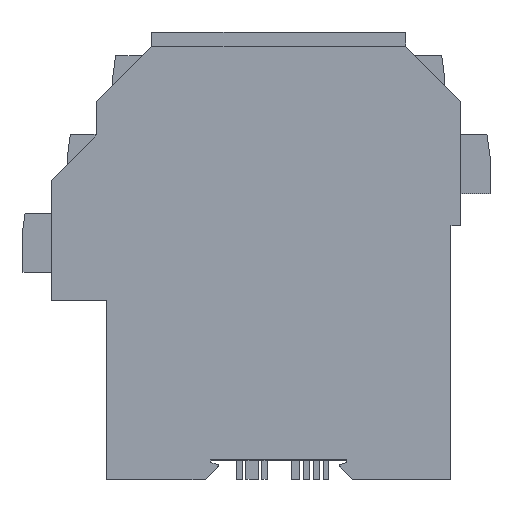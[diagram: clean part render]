
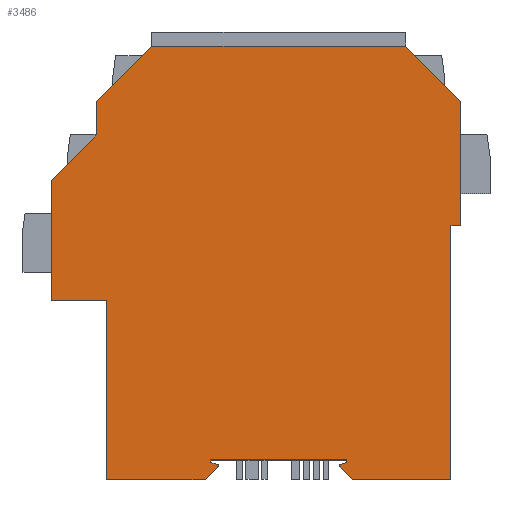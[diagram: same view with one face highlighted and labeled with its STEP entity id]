
A CAD part, top view. The second image highlights one B-rep face of the part: STEP entity #3486.
In plain terms, the highlighted planar face has unit normal (0, 0, 1).
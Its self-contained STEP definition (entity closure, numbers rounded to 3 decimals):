
#61=DIRECTION('',(1.,0.,0.));
#62=VECTOR('',#61,34.59);
#63=CARTESIAN_POINT('',(-17.25,0.,10.));
#64=LINE('',#63,#62);
#433=DIRECTION('',(0.,-1.,0.));
#434=VECTOR('',#433,45.5);
#435=CARTESIAN_POINT('',(-43.75,40.5,10.));
#436=LINE('',#435,#434);
#445=DIRECTION('',(0.,-1.,0.));
#446=VECTOR('',#445,0.65);
#447=CARTESIAN_POINT('',(-17.25,0.,10.));
#448=LINE('',#447,#446);
#449=DIRECTION('',(0.965,-0.261,0.));
#450=VECTOR('',#449,2.072);
#451=CARTESIAN_POINT('',(-17.25,-0.65,10.));
#452=LINE('',#451,#450);
#453=DIRECTION('',(0.,-1.,0.));
#454=VECTOR('',#453,0.31);
#455=CARTESIAN_POINT('',(-15.25,-1.19,10.));
#456=LINE('',#455,#454);
#457=DIRECTION('',(-0.699,-0.715,0.));
#458=VECTOR('',#457,4.894);
#459=CARTESIAN_POINT('',(-15.25,-1.5,10.));
#460=LINE('',#459,#458);
#461=DIRECTION('',(-1.,0.,0.));
#462=VECTOR('',#461,25.08);
#463=CARTESIAN_POINT('',(-18.67,-5.,10.));
#464=LINE('',#463,#462);
#465=DIRECTION('',(-1.,0.,0.));
#466=VECTOR('',#465,14.);
#467=CARTESIAN_POINT('',(-43.75,40.5,10.));
#468=LINE('',#467,#466);
#469=DIRECTION('',(0.,1.,0.));
#470=VECTOR('',#469,30.5);
#471=CARTESIAN_POINT('',(-57.75,40.5,10.));
#472=LINE('',#471,#470);
#473=DIRECTION('',(0.707,0.707,0.));
#474=VECTOR('',#473,16.263);
#475=CARTESIAN_POINT('',(-57.75,71.,10.));
#476=LINE('',#475,#474);
#477=DIRECTION('',(0.,1.,0.));
#478=VECTOR('',#477,8.5);
#479=CARTESIAN_POINT('',(-46.25,82.5,10.));
#480=LINE('',#479,#478);
#481=DIRECTION('',(0.707,0.707,0.));
#482=VECTOR('',#481,19.87);
#483=CARTESIAN_POINT('',(-46.25,91.,10.));
#484=LINE('',#483,#482);
#485=DIRECTION('',(1.,0.,0.));
#486=VECTOR('',#485,64.4);
#487=CARTESIAN_POINT('',(-32.2,105.05,10.));
#488=LINE('',#487,#486);
#489=DIRECTION('',(0.707,-0.707,0.));
#490=VECTOR('',#489,19.87);
#491=CARTESIAN_POINT('',(32.2,105.05,10.));
#492=LINE('',#491,#490);
#493=DIRECTION('',(0.,-1.,0.));
#494=VECTOR('',#493,31.5);
#495=CARTESIAN_POINT('',(46.25,91.,10.));
#496=LINE('',#495,#494);
#497=DIRECTION('',(-1.,0.,0.));
#498=VECTOR('',#497,2.5);
#499=CARTESIAN_POINT('',(46.25,59.5,10.));
#500=LINE('',#499,#498);
#501=DIRECTION('',(-1.,0.,0.));
#502=VECTOR('',#501,25.08);
#503=CARTESIAN_POINT('',(43.75,-5.,10.));
#504=LINE('',#503,#502);
#505=DIRECTION('',(-0.689,0.724,0.));
#506=VECTOR('',#505,4.831);
#507=CARTESIAN_POINT('',(18.67,-5.,10.));
#508=LINE('',#507,#506);
#509=DIRECTION('',(0.,1.,0.));
#510=VECTOR('',#509,0.31);
#511=CARTESIAN_POINT('',(15.34,-1.5,10.));
#512=LINE('',#511,#510);
#513=DIRECTION('',(0.965,0.261,0.));
#514=VECTOR('',#513,2.072);
#515=CARTESIAN_POINT('',(15.34,-1.19,10.));
#516=LINE('',#515,#514);
#517=DIRECTION('',(0.,1.,0.));
#518=VECTOR('',#517,0.65);
#519=CARTESIAN_POINT('',(17.34,-0.65,10.));
#520=LINE('',#519,#518);
#1455=DIRECTION('',(0.,1.,0.));
#1456=VECTOR('',#1455,64.5);
#1457=CARTESIAN_POINT('',(43.75,-5.,10.));
#1458=LINE('',#1457,#1456);
#2127=CARTESIAN_POINT('',(-17.25,0.,10.));
#2128=VERTEX_POINT('',#2127);
#2129=CARTESIAN_POINT('',(17.34,0.,10.));
#2130=VERTEX_POINT('',#2129);
#2243=CARTESIAN_POINT('',(-17.25,-0.65,10.));
#2244=VERTEX_POINT('',#2243);
#2245=CARTESIAN_POINT('',(-15.25,-1.19,10.));
#2246=VERTEX_POINT('',#2245);
#2247=CARTESIAN_POINT('',(-15.25,-1.5,10.));
#2248=VERTEX_POINT('',#2247);
#2249=CARTESIAN_POINT('',(-18.67,-5.,10.));
#2250=VERTEX_POINT('',#2249);
#2251=CARTESIAN_POINT('',(-43.75,-5.,10.));
#2252=VERTEX_POINT('',#2251);
#2253=CARTESIAN_POINT('',(18.67,-5.,10.));
#2254=VERTEX_POINT('',#2253);
#2255=CARTESIAN_POINT('',(43.75,-5.,10.));
#2256=VERTEX_POINT('',#2255);
#2257=CARTESIAN_POINT('',(-43.75,40.5,10.));
#2258=VERTEX_POINT('',#2257);
#2259=CARTESIAN_POINT('',(-57.75,40.5,10.));
#2260=VERTEX_POINT('',#2259);
#2261=CARTESIAN_POINT('',(-57.75,71.,10.));
#2262=VERTEX_POINT('',#2261);
#2263=CARTESIAN_POINT('',(-46.25,82.5,10.));
#2264=VERTEX_POINT('',#2263);
#2265=CARTESIAN_POINT('',(-46.25,91.,10.));
#2266=VERTEX_POINT('',#2265);
#2267=CARTESIAN_POINT('',(-32.2,105.05,10.));
#2268=VERTEX_POINT('',#2267);
#2269=CARTESIAN_POINT('',(32.2,105.05,10.));
#2270=VERTEX_POINT('',#2269);
#2271=CARTESIAN_POINT('',(46.25,91.,10.));
#2272=VERTEX_POINT('',#2271);
#2273=CARTESIAN_POINT('',(46.25,59.5,10.));
#2274=VERTEX_POINT('',#2273);
#2275=CARTESIAN_POINT('',(43.75,59.5,10.));
#2276=VERTEX_POINT('',#2275);
#2277=CARTESIAN_POINT('',(15.34,-1.5,10.));
#2278=VERTEX_POINT('',#2277);
#2279=CARTESIAN_POINT('',(15.34,-1.19,10.));
#2280=VERTEX_POINT('',#2279);
#2281=CARTESIAN_POINT('',(17.34,-0.65,10.));
#2282=VERTEX_POINT('',#2281);
#3441=CARTESIAN_POINT('',(0.,0.,10.));
#3442=DIRECTION('',(0.,0.,1.));
#3443=DIRECTION('',(1.,0.,0.));
#3444=AXIS2_PLACEMENT_3D('',#3441,#3442,#3443);
#3445=PLANE('',#3444);
#3446=ORIENTED_EDGE('',*,*,#2935,.F.);
#3448=ORIENTED_EDGE('',*,*,#3447,.T.);
#3449=ORIENTED_EDGE('',*,*,#3376,.T.);
#3451=ORIENTED_EDGE('',*,*,#3450,.T.);
#3452=ORIENTED_EDGE('',*,*,#3391,.T.);
#3453=ORIENTED_EDGE('',*,*,#3407,.T.);
#3454=ORIENTED_EDGE('',*,*,#3432,.F.);
#3456=ORIENTED_EDGE('',*,*,#3455,.T.);
#3458=ORIENTED_EDGE('',*,*,#3457,.T.);
#3460=ORIENTED_EDGE('',*,*,#3459,.T.);
#3462=ORIENTED_EDGE('',*,*,#3461,.T.);
#3464=ORIENTED_EDGE('',*,*,#3463,.T.);
#3466=ORIENTED_EDGE('',*,*,#3465,.T.);
#3468=ORIENTED_EDGE('',*,*,#3467,.T.);
#3470=ORIENTED_EDGE('',*,*,#3469,.T.);
#3472=ORIENTED_EDGE('',*,*,#3471,.T.);
#3474=ORIENTED_EDGE('',*,*,#3473,.F.);
#3475=ORIENTED_EDGE('',*,*,#3419,.T.);
#3477=ORIENTED_EDGE('',*,*,#3476,.T.);
#3479=ORIENTED_EDGE('',*,*,#3478,.T.);
#3481=ORIENTED_EDGE('',*,*,#3480,.T.);
#3483=ORIENTED_EDGE('',*,*,#3482,.T.);
#3484=EDGE_LOOP('',(#3446,#3448,#3449,#3451,#3452,#3453,#3454,#3456,#3458,#3460,
#3462,#3464,#3466,#3468,#3470,#3472,#3474,#3475,#3477,#3479,#3481,#3483));
#3485=FACE_OUTER_BOUND('',#3484,.F.);
#3486=ADVANCED_FACE('',(#3485),#3445,.T.);
#2935=EDGE_CURVE('',#2128,#2130,#64,.T.);
#3376=EDGE_CURVE('',#2244,#2246,#452,.T.);
#3391=EDGE_CURVE('',#2248,#2250,#460,.T.);
#3407=EDGE_CURVE('',#2250,#2252,#464,.T.);
#3419=EDGE_CURVE('',#2256,#2254,#504,.T.);
#3432=EDGE_CURVE('',#2258,#2252,#436,.T.);
#3447=EDGE_CURVE('',#2128,#2244,#448,.T.);
#3450=EDGE_CURVE('',#2246,#2248,#456,.T.);
#3455=EDGE_CURVE('',#2258,#2260,#468,.T.);
#3457=EDGE_CURVE('',#2260,#2262,#472,.T.);
#3459=EDGE_CURVE('',#2262,#2264,#476,.T.);
#3461=EDGE_CURVE('',#2264,#2266,#480,.T.);
#3463=EDGE_CURVE('',#2266,#2268,#484,.T.);
#3465=EDGE_CURVE('',#2268,#2270,#488,.T.);
#3467=EDGE_CURVE('',#2270,#2272,#492,.T.);
#3469=EDGE_CURVE('',#2272,#2274,#496,.T.);
#3471=EDGE_CURVE('',#2274,#2276,#500,.T.);
#3473=EDGE_CURVE('',#2256,#2276,#1458,.T.);
#3476=EDGE_CURVE('',#2254,#2278,#508,.T.);
#3478=EDGE_CURVE('',#2278,#2280,#512,.T.);
#3480=EDGE_CURVE('',#2280,#2282,#516,.T.);
#3482=EDGE_CURVE('',#2282,#2130,#520,.T.);
